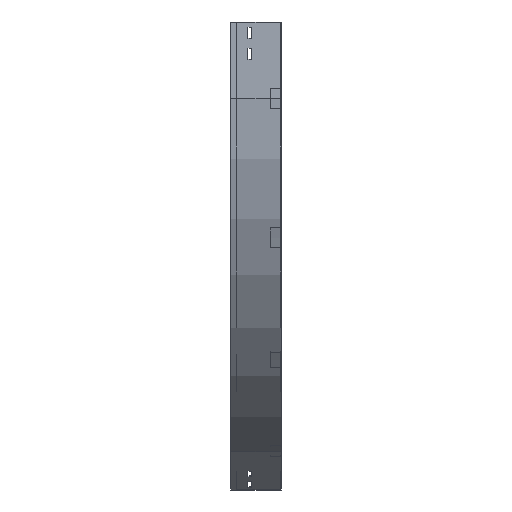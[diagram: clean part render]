
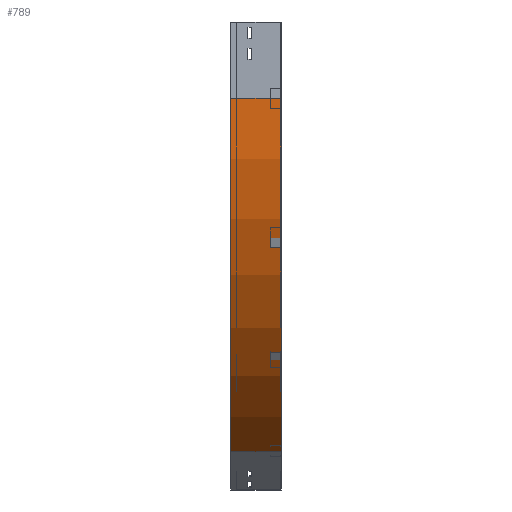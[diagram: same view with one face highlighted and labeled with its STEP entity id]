
A CAD part, left-side view. The second image highlights one B-rep face of the part: STEP entity #789.
In plain terms, the highlighted cylindrical face has radius 800 mm (diameter 1600 mm), a partial arc.
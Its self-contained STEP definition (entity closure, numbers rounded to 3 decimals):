
#4 = DIRECTION ( 'NONE',  ( 0., -1., 0. ) ) ;
#96 = CARTESIAN_POINT ( 'NONE',  ( 0., 100., -150. ) ) ;
#175 = DIRECTION ( 'NONE',  ( -1., 0., 0. ) ) ;
#391 = VERTEX_POINT ( 'NONE', #96 ) ;
#433 = CARTESIAN_POINT ( 'NONE',  ( 800., 0., -150. ) ) ;
#469 = CARTESIAN_POINT ( 'NONE',  ( 400., 0., -842.82 ) ) ;
#490 = DIRECTION ( 'NONE',  ( 0., -1., 0. ) ) ;
#614 = VECTOR ( 'NONE', #3111, 1000. ) ;
#635 = CARTESIAN_POINT ( 'NONE',  ( 400., 100., -842.82 ) ) ;
#726 = FACE_OUTER_BOUND ( 'NONE', #3724, .T. ) ;
#736 = AXIS2_PLACEMENT_3D ( 'NONE', #1599, #490, #175 ) ;
#770 = EDGE_CURVE ( 'NONE', #391, #2636, #3003, .T. ) ;
#789 = ADVANCED_FACE ( 'NONE', ( #726 ), #1952, .T. ) ;
#868 = CARTESIAN_POINT ( 'NONE',  ( 400., 0., -842.82 ) ) ;
#918 = ORIENTED_EDGE ( 'NONE', *, *, #2891, .T. ) ;
#961 = CARTESIAN_POINT ( 'NONE',  ( 0., 0., -150. ) ) ;
#1057 = EDGE_CURVE ( 'NONE', #391, #2567, #1667, .T. ) ;
#1132 = ORIENTED_EDGE ( 'NONE', *, *, #770, .F. ) ;
#1161 = LINE ( 'NONE', #868, #1313 ) ;
#1276 = DIRECTION ( 'NONE',  ( -1., 0., 0. ) ) ;
#1313 = VECTOR ( 'NONE', #4, 1000. ) ;
#1491 = CARTESIAN_POINT ( 'NONE',  ( 800., 0., -150. ) ) ;
#1599 = CARTESIAN_POINT ( 'NONE',  ( 800., 100., -150. ) ) ;
#1667 = CIRCLE ( 'NONE', #736, 800. ) ;
#1790 = EDGE_CURVE ( 'NONE', #2636, #2417, #2764, .T. ) ;
#1952 = CYLINDRICAL_SURFACE ( 'NONE', #2973, 800. ) ;
#1972 = DIRECTION ( 'NONE',  ( 0., -1., 0. ) ) ;
#2148 = DIRECTION ( 'NONE',  ( 0., -1., 0. ) ) ;
#2187 = CARTESIAN_POINT ( 'NONE',  ( 0., 0., -150. ) ) ;
#2417 = VERTEX_POINT ( 'NONE', #469 ) ;
#2516 = AXIS2_PLACEMENT_3D ( 'NONE', #1491, #2148, #1276 ) ;
#2567 = VERTEX_POINT ( 'NONE', #635 ) ;
#2636 = VERTEX_POINT ( 'NONE', #2187 ) ;
#2764 = CIRCLE ( 'NONE', #2516, 800. ) ;
#2804 = DIRECTION ( 'NONE',  ( 0., 0., -1. ) ) ;
#2891 = EDGE_CURVE ( 'NONE', #2567, #2417, #1161, .T. ) ;
#2973 = AXIS2_PLACEMENT_3D ( 'NONE', #433, #1972, #2804 ) ;
#3003 = LINE ( 'NONE', #961, #614 ) ;
#3110 = ORIENTED_EDGE ( 'NONE', *, *, #1790, .F. ) ;
#3111 = DIRECTION ( 'NONE',  ( 0., -1., 0. ) ) ;
#3559 = ORIENTED_EDGE ( 'NONE', *, *, #1057, .T. ) ;
#3724 = EDGE_LOOP ( 'NONE', ( #3110, #1132, #3559, #918 ) ) ;
